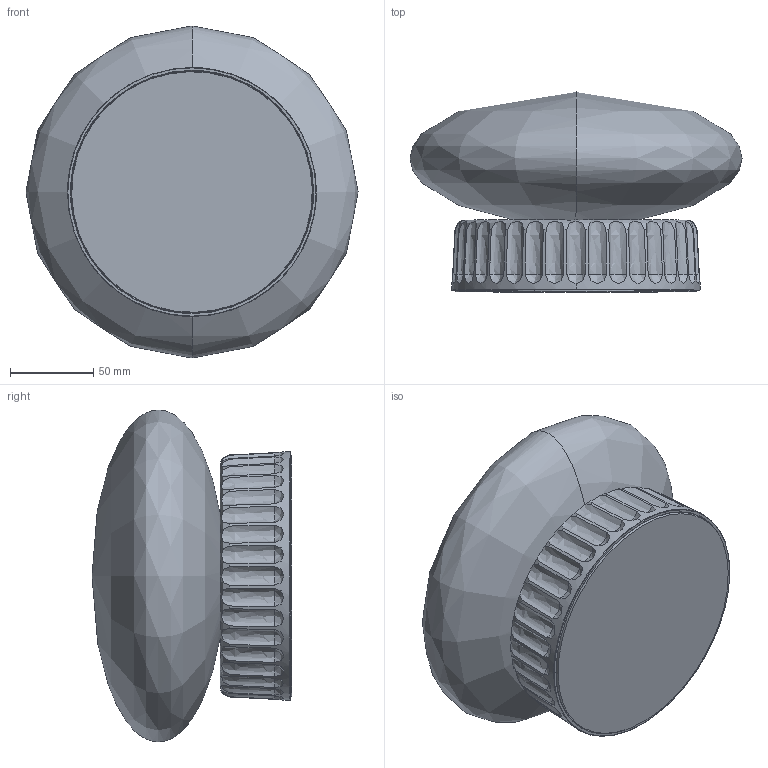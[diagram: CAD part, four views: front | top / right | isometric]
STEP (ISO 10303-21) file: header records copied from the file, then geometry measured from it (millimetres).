
FILE_DESCRIPTION(/* description */ (''),/* implementation_level */ '2;1');
FILE_NAME(/* name */ 'SEM.000246',/* time_stamp */ '2024-02-13T18:08:23+01:00',/* author */ (''),/* organization */ (''),/* preprocessor_version */ 'ST-DEVELOPER v16.5',/* originating_system */ 'Rhino 7.36',/* authorisation */ '');
FILE_SCHEMA (('CONFIG_CONTROL_DESIGN'));
Length unit declared in the file: millimetre
Products named in the file (3): Document; GOM.000018; VET.000082
Assembly tree (2 placements, depth 2):
  Document
    GOM.000018
    VET.000082
Bounding box: 200 x 120.42 x 200 mm (x, y, z)
Volume: 520672.1 mm3; surface area: 270272.8 mm2
Topology: 5 solids, 5 shells, 217 faces, 596 edges, 397 vertices
Faces by surface type: bspline 160, plane 39, cylinder 18
Entity records: 12165 total; most frequent: CARTESIAN_POINT 8516, ORIENTED_EDGE 1184, EDGE_CURVE 592, VERTEX_POINT 397, B_SPLINE_CURVE_WITH_KNOTS 316, EDGE_LOOP 233, ADVANCED_FACE 217, FACE_OUTER_BOUND 217
